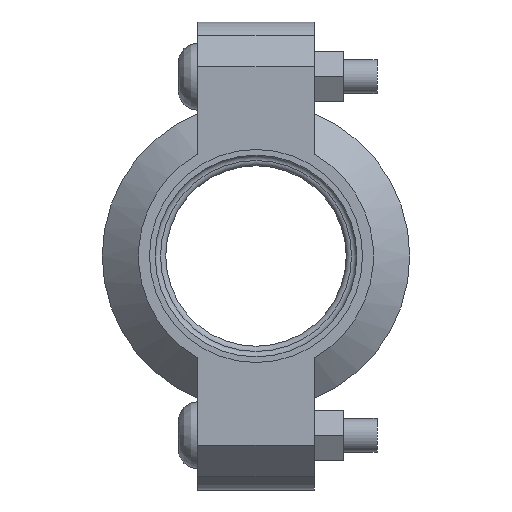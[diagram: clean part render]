
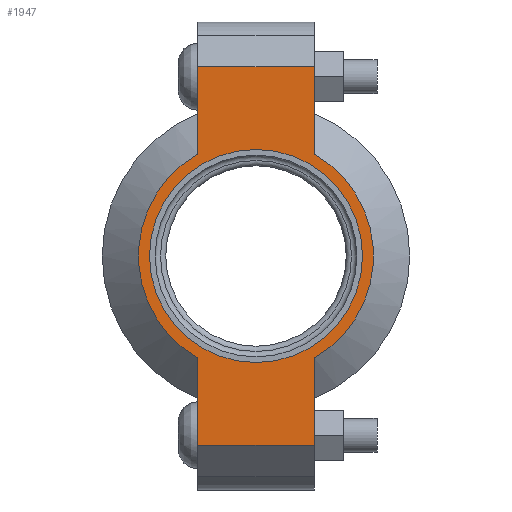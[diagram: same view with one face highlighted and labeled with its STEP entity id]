
A CAD part, left-side view. The second image highlights one B-rep face of the part: STEP entity #1947.
In plain terms, the highlighted planar face has unit normal (-1, 0, 0) as drawn and (0, 0, 1) by its records, which use the part's own axes.
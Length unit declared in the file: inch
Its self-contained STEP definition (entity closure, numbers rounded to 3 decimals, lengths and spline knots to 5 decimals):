
#136=LINE('',#3451,#233);
#144=LINE('',#3487,#241);
#151=LINE('',#3508,#248);
#160=LINE('',#3540,#257);
#161=LINE('',#3544,#258);
#162=LINE('',#3546,#259);
#233=VECTOR('',#2815,0.3937);
#241=VECTOR('',#2831,0.3937);
#248=VECTOR('',#2850,0.3937);
#257=VECTOR('',#2875,0.3937);
#258=VECTOR('',#2880,0.3937);
#259=VECTOR('',#2881,0.3937);
#315=FACE_BOUND('',#565,.T.);
#359=PLANE('',#2286);
#447=FACE_OUTER_BOUND('',#564,.T.);
#564=EDGE_LOOP('',(#1668,#1669,#1670,#1671,#1672,#1673,#1674,#1675));
#565=EDGE_LOOP('',(#1676));
#737=CIRCLE('',#2287,1.31);
#738=CIRCLE('',#2288,1.31);
#739=CIRCLE('',#2289,1.1875);
#901=VERTEX_POINT('',#3448);
#902=VERTEX_POINT('',#3450);
#913=VERTEX_POINT('',#3482);
#914=VERTEX_POINT('',#3486);
#921=VERTEX_POINT('',#3505);
#922=VERTEX_POINT('',#3507);
#932=VERTEX_POINT('',#3543);
#933=VERTEX_POINT('',#3545);
#934=VERTEX_POINT('',#3548);
#1146=EDGE_CURVE('',#902,#901,#136,.T.);
#1160=EDGE_CURVE('',#914,#913,#144,.T.);
#1170=EDGE_CURVE('',#922,#921,#151,.T.);
#1185=EDGE_CURVE('',#914,#901,#160,.T.);
#1186=EDGE_CURVE('',#913,#922,#737,.T.);
#1187=EDGE_CURVE('',#932,#921,#161,.T.);
#1188=EDGE_CURVE('',#932,#933,#162,.T.);
#1189=EDGE_CURVE('',#933,#902,#738,.T.);
#1190=EDGE_CURVE('',#934,#934,#739,.T.);
#1668=ORIENTED_EDGE('',*,*,#1185,.F.);
#1669=ORIENTED_EDGE('',*,*,#1160,.T.);
#1670=ORIENTED_EDGE('',*,*,#1186,.T.);
#1671=ORIENTED_EDGE('',*,*,#1170,.T.);
#1672=ORIENTED_EDGE('',*,*,#1187,.F.);
#1673=ORIENTED_EDGE('',*,*,#1188,.T.);
#1674=ORIENTED_EDGE('',*,*,#1189,.T.);
#1675=ORIENTED_EDGE('',*,*,#1146,.T.);
#1676=ORIENTED_EDGE('',*,*,#1190,.T.);
#1947=ADVANCED_FACE('',(#447,#315),#359,.T.);
#2286=AXIS2_PLACEMENT_3D('',#3541,#2876,#2877);
#2287=AXIS2_PLACEMENT_3D('',#3542,#2878,#2879);
#2288=AXIS2_PLACEMENT_3D('',#3547,#2882,#2883);
#2289=AXIS2_PLACEMENT_3D('',#3549,#2884,#2885);
#2815=DIRECTION('',(1.,0.,0.));
#2831=DIRECTION('',(-1.,0.,0.));
#2850=DIRECTION('',(-1.,0.,0.));
#2875=DIRECTION('',(0.,-1.,0.));
#2876=DIRECTION('center_axis',(0.,0.,1.));
#2877=DIRECTION('ref_axis',(-1.,0.,0.));
#2878=DIRECTION('center_axis',(0.,0.,1.));
#2879=DIRECTION('ref_axis',(1.,0.,0.));
#2880=DIRECTION('',(0.,1.,0.));
#2881=DIRECTION('',(1.,0.,0.));
#2882=DIRECTION('center_axis',(0.,0.,1.));
#2883=DIRECTION('ref_axis',(1.,0.,0.));
#2884=DIRECTION('center_axis',(0.,0.,-1.));
#2885=DIRECTION('ref_axis',(1.,0.,0.));
#3448=CARTESIAN_POINT('',(2.11,-0.65,0.94));
#3450=CARTESIAN_POINT('',(1.13737,-0.65,0.94));
#3451=CARTESIAN_POINT('',(2.61,-0.65,0.94));
#3482=CARTESIAN_POINT('',(1.13737,0.65,0.94));
#3486=CARTESIAN_POINT('',(2.11,0.65,0.94));
#3487=CARTESIAN_POINT('',(-2.61,0.65,0.94));
#3505=CARTESIAN_POINT('',(-2.11,0.65,0.94));
#3507=CARTESIAN_POINT('',(-1.13737,0.65,0.94));
#3508=CARTESIAN_POINT('',(-2.61,0.65,0.94));
#3540=CARTESIAN_POINT('',(2.11,-0.325,0.94));
#3541=CARTESIAN_POINT('Origin',(0.,0.,
0.94));
#3542=CARTESIAN_POINT('Origin',(0.,0.,0.94));
#3543=CARTESIAN_POINT('',(-2.11,-0.65,0.94));
#3544=CARTESIAN_POINT('',(-2.11,0.325,0.94));
#3545=CARTESIAN_POINT('',(-1.13737,-0.65,0.94));
#3546=CARTESIAN_POINT('',(2.61,-0.65,0.94));
#3547=CARTESIAN_POINT('Origin',(0.,0.,0.94));
#3548=CARTESIAN_POINT('',(-1.1875,0.,0.94));
#3549=CARTESIAN_POINT('Origin',(0.,0.,0.94));
